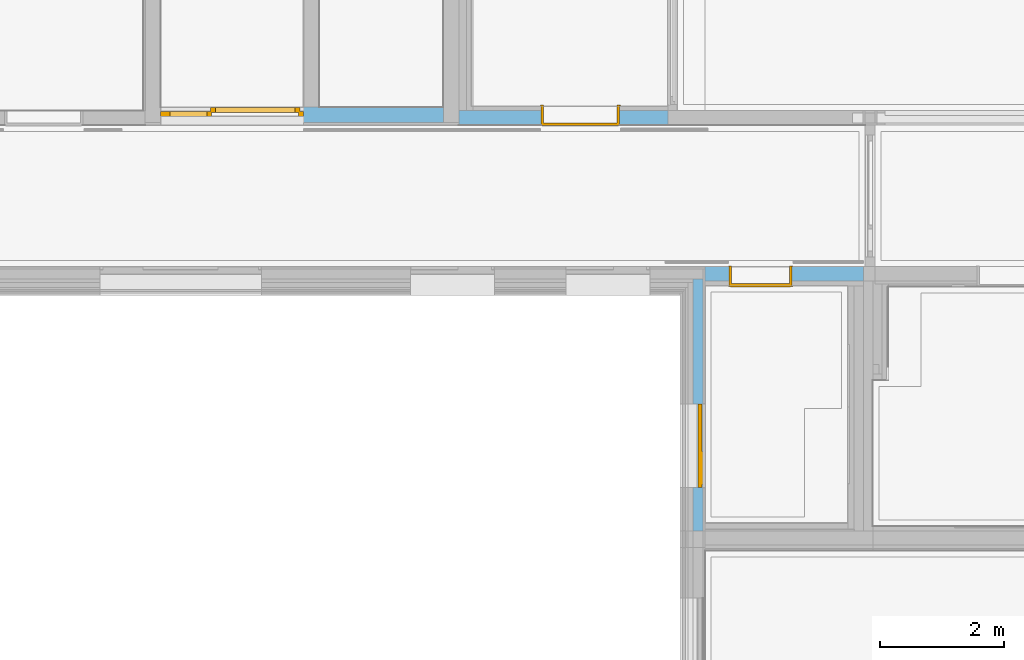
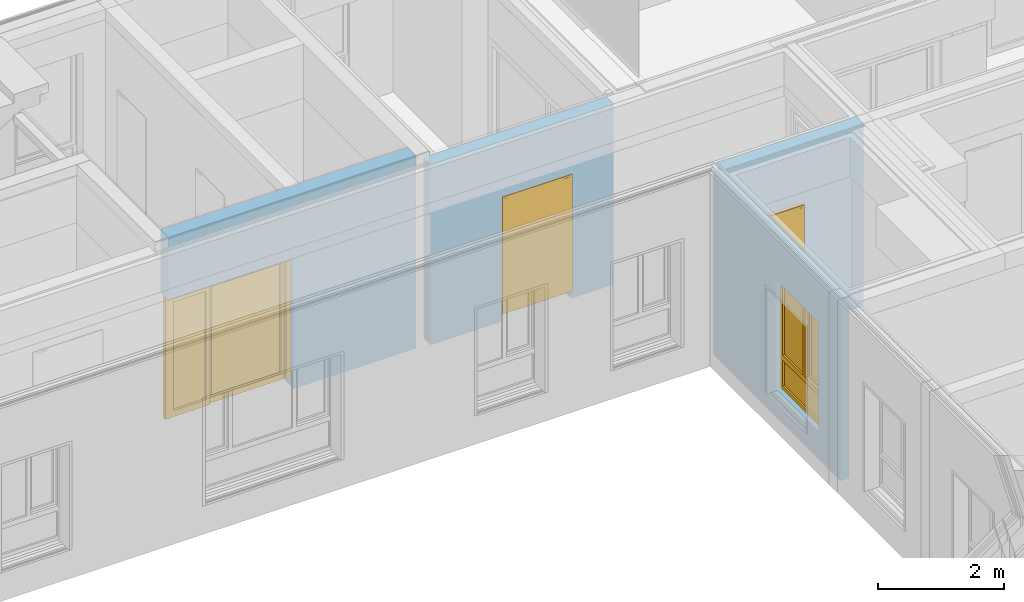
# One storey, part 98 of 222: 3 doors, 1 window, 4 openings, plus 4 elements that do not belong to this part.
"""IFC4 building model written with IfcOpenShell, lengths in metres."""

from ifc_helpers import new_model, entity, si_unit, converted_unit, derived_unit, frame, frame_2d, origin, origin_with_axes, place, context, subcontext, project, spatial, polyline, rectangle, outline, extrude, closed_shell, open_shell, faceted_brep, surface_model, source, transform, mapped, material, type_object, element, fill, save


model = new_model("IFC4")

# Units and contexts
model_context = context("Model", 3, precision=1e-05, world=origin())
body_context = subcontext(model_context, "Body", "Model", "MODEL_VIEW")
ifc_project = project(units=[si_unit("LENGTHUNIT", "METRE"), si_unit("AREAUNIT", "SQUARE_METRE"), si_unit("VOLUMEUNIT", "CUBIC_METRE"), si_unit("MASSUNIT", "GRAM", prefix="KILO"), converted_unit("PLANEANGLEUNIT", "DEGREE", entity("IfcPlaneAngleMeasure", 0.0174532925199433), si_unit("PLANEANGLEUNIT", "RADIAN"), dimensions=[0, 0, 0, 0, 0, 0, 0]), derived_unit("THERMALTRANSMITTANCEUNIT", [(si_unit("POWERUNIT", "WATT"), 1), (si_unit("THERMODYNAMICTEMPERATUREUNIT", "KELVIN"), -1), (si_unit("LENGTHUNIT", "METRE"), -2)]), derived_unit("VOLUMETRICFLOWRATEUNIT", [(si_unit("LENGTHUNIT", "METRE"), 3), (converted_unit("TIMEUNIT", "hour", entity("IfcTimeMeasure", 3600.0), si_unit("TIMEUNIT", "SECOND"), dimensions=[0, 0, 1, 0, 0, 0, 0]), -1), (si_unit("LENGTHUNIT", "METRE"), -1)])], contexts=[model_context])

# Site, building, storey
site_placement = place(None, origin())
site = spatial("IfcSite", under=ifc_project, at=site_placement, Name="Psychiatrie Neubau Wunstorf", CompositionType="ELEMENT")
building_placement = place(site_placement, origin())
building = spatial("IfcBuilding", under=site, at=building_placement, Name="Neubau H2 Stationsgebäude", CompositionType="ELEMENT")
storey_placement = place(building_placement, frame((0.0, 0.0, 3.6)))
storey = spatial("IfcBuildingStorey", under=building, at=storey_placement, Name="H2 Ebene +1", CompositionType="ELEMENT", Elevation=3.6)

# Wall, opening, window
ifc_material_1 = material(Name="WA-DL")
wall_1_placement = place(storey_placement, frame((62.0250000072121, 16.336000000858, 0.0), z_axis=(0.0, 0.0, 1.0), x_axis=(1.7947610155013e-15, 1.0, 0.0)))
wall_1 = element("IfcWall", 1, at=wall_1_placement, inside=storey, material=ifc_material_1, context=body_context, shape_type="SweptSolid", body=[
    extrude(rectangle(XDim=4.05399802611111, YDim=0.16, at=frame_2d((2.02699901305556, 0.08), x_axis=(1.0, 0.0))), origin_with_axes(), (0.0, 0.0, 1.0), 3.55),
])
opening_1_placement = place(wall_1_placement, frame((2.0439980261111, 0.160000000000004, 0.55), z_axis=(1.4210854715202e-15, -1.0, 0.0), x_axis=(0.0, 0.0, 1.0)))
opening_1 = element("IfcOpeningElement", 2, at=opening_1_placement, cuts=wall_1, Name="Fensteröffnung", ObjectType="Opening", context=body_context, shape_type="SweptSolid", body=[
    extrude(outline(polyline([(2.115, 1.35), (2.115, 0.0), (0.0, 0.0), (0.0, 1.35), (2.115, 1.35)])), origin_with_axes(), (0.0, 0.0, 1.0), 0.16),
])
shared_shape_1 = source(origin_with_axes(), body_context, "Body", "SurfaceModel", [
    surface_model("IfcShellBasedSurfaceModel", [(1.35000000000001, 0.0, 2.115), (1.35000000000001, 0.0, 0.0), (1.28000000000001, 0.0, 0.0), (1.28000000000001, 0.0, 2.115), (1.35000000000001, 0.069999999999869, 0.0), (1.35000000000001, 0.069999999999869, 2.115), (1.28000000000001, 0.069999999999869, 2.115), (1.28000000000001, 0.069999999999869, 0.0)], [closed_shell([[[0, 1, 2, 3]], [[4, 5, 6, 7]], [[1, 0, 5, 4]], [[2, 1, 4, 7]], [[3, 2, 7, 6]], [[0, 3, 6, 5]]], orient=[[False], [False], [False], [False], [False], [False]])]),
    surface_model("IfcShellBasedSurfaceModel", [(0.0700000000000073, 0.0, 2.115), (0.0700000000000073, 0.0, 0.0), (0.0, 0.0, 0.0), (0.0, 0.0, 2.115), (0.0700000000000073, 0.069999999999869, 0.0), (0.0700000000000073, 0.069999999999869, 2.115), (0.0, 0.069999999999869, 2.115), (0.0, 0.069999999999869, 0.0)], [closed_shell([[[0, 1, 2, 3]], [[4, 5, 6, 7]], [[1, 0, 5, 4]], [[2, 1, 4, 7]], [[3, 2, 7, 6]], [[0, 3, 6, 5]]], orient=[[False], [False], [False], [False], [False], [False]])]),
    surface_model("IfcShellBasedSurfaceModel", [(1.28000000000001, 0.0, 0.07), (1.28000000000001, 0.0, 0.0), (0.0700000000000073, 0.0, 0.0), (0.0700000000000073, 0.0, 0.07), (1.28000000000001, 0.069999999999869, 0.0), (1.28000000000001, 0.069999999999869, 0.07), (0.0700000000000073, 0.069999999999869, 0.07), (0.0700000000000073, 0.069999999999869, 0.0)], [closed_shell([[[0, 1, 2, 3]], [[4, 5, 6, 7]], [[1, 0, 5, 4]], [[2, 1, 4, 7]], [[3, 2, 7, 6]], [[0, 3, 6, 5]]], orient=[[False], [False], [False], [False], [False], [False]])]),
    surface_model("IfcShellBasedSurfaceModel", [(1.28000000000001, 0.0, 2.115), (1.28000000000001, 0.0, 2.045), (0.0700000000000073, 0.0, 2.045), (0.0700000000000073, 0.0, 2.115), (1.28000000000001, 0.069999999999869, 2.045), (1.28000000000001, 0.069999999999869, 2.115), (0.0700000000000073, 0.069999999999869, 2.115), (0.0700000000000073, 0.069999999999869, 2.045)], [closed_shell([[[0, 1, 2, 3]], [[4, 5, 6, 7]], [[1, 0, 5, 4]], [[2, 1, 4, 7]], [[3, 2, 7, 6]], [[0, 3, 6, 5]]], orient=[[False], [False], [False], [False], [False], [False]])]),
    surface_model("IfcShellBasedSurfaceModel", [(1.28000000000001, 0.0, 0.67), (1.28000000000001, 0.0, 0.57), (0.0700000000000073, 0.0, 0.57), (0.0700000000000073, 0.0, 0.67), (1.28000000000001, 0.069999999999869, 0.57), (1.28000000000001, 0.069999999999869, 0.67), (0.0700000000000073, 0.069999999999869, 0.67), (0.0700000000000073, 0.069999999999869, 0.57)], [closed_shell([[[0, 1, 2, 3]], [[4, 5, 6, 7]], [[1, 0, 5, 4]], [[2, 1, 4, 7]], [[3, 2, 7, 6]], [[0, 3, 6, 5]]], orient=[[False], [False], [False], [False], [False], [False]])]),
    surface_model("IfcShellBasedSurfaceModel", [(1.28000000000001, 0.0349999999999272, 0.07), (0.0700000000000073, 0.0349999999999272, 0.07), (0.0700000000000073, 0.0349999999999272, 0.57), (1.28000000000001, 0.0349999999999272, 0.57)], [open_shell([[[0, 1, 2, 3]]], orient=[[False]])]),
    surface_model("IfcShellBasedSurfaceModel", [(0.784300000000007, 0.0, 2.045), (0.784300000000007, 0.0, 0.67), (0.714300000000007, 0.0, 0.67), (0.714300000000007, 0.0, 2.045), (0.784300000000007, 0.069999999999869, 0.67), (0.784300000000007, 0.069999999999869, 2.045), (0.714300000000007, 0.069999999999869, 2.045), (0.714300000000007, 0.069999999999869, 0.67)], [closed_shell([[[0, 1, 2, 3]], [[4, 5, 6, 7]], [[1, 0, 5, 4]], [[2, 1, 4, 7]], [[3, 2, 7, 6]], [[0, 3, 6, 5]]], orient=[[False], [False], [False], [False], [False], [False]])]),
    surface_model("IfcShellBasedSurfaceModel", [(1.30000000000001, 0.0499999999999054, 2.065), (1.30000000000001, 0.0499999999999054, 0.65), (1.23000000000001, 0.0499999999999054, 0.65), (1.23000000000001, 0.0499999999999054, 2.065), (1.30000000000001, 0.119999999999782, 0.65), (1.30000000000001, 0.119999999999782, 2.065), (1.23000000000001, 0.119999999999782, 2.065), (1.23000000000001, 0.119999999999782, 0.65)], [closed_shell([[[0, 1, 2, 3]], [[4, 5, 6, 7]], [[1, 0, 5, 4]], [[2, 1, 4, 7]], [[3, 2, 7, 6]], [[0, 3, 6, 5]]], orient=[[False], [False], [False], [False], [False], [False]])]),
    surface_model("IfcShellBasedSurfaceModel", [(0.834300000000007, 0.0499999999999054, 2.065), (0.834300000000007, 0.0499999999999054, 0.65), (0.764300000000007, 0.0499999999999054, 0.65), (0.764300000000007, 0.0499999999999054, 2.065), (0.834300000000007, 0.119999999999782, 0.65), (0.834300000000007, 0.119999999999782, 2.065), (0.764300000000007, 0.119999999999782, 2.065), (0.764300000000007, 0.119999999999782, 0.65)], [closed_shell([[[0, 1, 2, 3]], [[4, 5, 6, 7]], [[1, 0, 5, 4]], [[2, 1, 4, 7]], [[3, 2, 7, 6]], [[0, 3, 6, 5]]], orient=[[False], [False], [False], [False], [False], [False]])]),
    surface_model("IfcShellBasedSurfaceModel", [(1.23000000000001, 0.0499999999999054, 0.72), (1.23000000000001, 0.0499999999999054, 0.65), (0.834300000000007, 0.0499999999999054, 0.65), (0.834300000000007, 0.0499999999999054, 0.72), (1.23000000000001, 0.119999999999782, 0.65), (1.23000000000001, 0.119999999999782, 0.72), (0.834300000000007, 0.119999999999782, 0.72), (0.834300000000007, 0.119999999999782, 0.65)], [closed_shell([[[0, 1, 2, 3]], [[4, 5, 6, 7]], [[1, 0, 5, 4]], [[2, 1, 4, 7]], [[3, 2, 7, 6]], [[0, 3, 6, 5]]], orient=[[False], [False], [False], [False], [False], [False]])]),
    surface_model("IfcShellBasedSurfaceModel", [(1.23000000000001, 0.0499999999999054, 2.065), (1.23000000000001, 0.0499999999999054, 1.995), (0.834300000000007, 0.0499999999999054, 1.995), (0.834300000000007, 0.0499999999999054, 2.065), (1.23000000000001, 0.119999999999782, 1.995), (1.23000000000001, 0.119999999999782, 2.065), (0.834300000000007, 0.119999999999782, 2.065), (0.834300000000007, 0.119999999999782, 1.995)], [closed_shell([[[0, 1, 2, 3]], [[4, 5, 6, 7]], [[1, 0, 5, 4]], [[2, 1, 4, 7]], [[3, 2, 7, 6]], [[0, 3, 6, 5]]], orient=[[False], [False], [False], [False], [False], [False]])]),
    surface_model("IfcShellBasedSurfaceModel", [(0.714300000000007, 0.0349999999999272, 0.67), (0.0700000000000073, 0.0349999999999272, 0.67), (0.0700000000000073, 0.0349999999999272, 2.045), (0.714300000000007, 0.0349999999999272, 2.045)], [open_shell([[[0, 1, 2, 3]]], orient=[[False]])]),
    surface_model("IfcShellBasedSurfaceModel", [(1.23000000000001, 0.0849999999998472, 0.72), (0.834300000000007, 0.0849999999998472, 0.72), (0.834300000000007, 0.0849999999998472, 1.995), (1.23000000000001, 0.0849999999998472, 1.995)], [open_shell([[[0, 1, 2, 3]]], orient=[[False]])]),
])
window_placement = place(opening_1_placement, frame((0.0, 0.0, 0.081), z_axis=(1.0, 0.0, 0.0), x_axis=(0.0, 1.0, 3.73675543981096e-16)))
window = element("IfcWindow", 3, at=window_placement, inside=storey, Name="Fenster", OverallHeight=2.115, OverallWidth=1.35, PartitioningType="USERDEFINED", PredefinedType="WINDOW", context=body_context, shape_type="MappedRepresentation", body=[
    mapped(shared_shape_1, transform((0.0, 0.0, 0.0), x_axis=(1.0, 0.0, 0.0), y_axis=(0.0, 1.0, 0.0), z_axis=(0.0, 0.0, 1.0), scale=1.0)),
])
fill(opening_1, window)

# Wall, opening, door
ifc_material_2 = material(Name="WI-STB")
wall_2_placement = place(storey_placement, frame((57.85, 23.1549914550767, 0.0), z_axis=(0.0, 0.0, 1.0), x_axis=(-1.0, 0.0, 0.0)))
wall_2 = element("IfcWall", 4, at=wall_2_placement, inside=storey, material=ifc_material_2, context=body_context, shape_type="SweptSolid", body=[
    extrude(rectangle(XDim=4.55000000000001, YDim=0.25, at=frame_2d((2.275, 0.125), x_axis=(1.0, 0.0))), origin_with_axes(), (0.0, 0.0, 1.0), 3.75),
])
opening_2_placement = place(wall_2_placement, frame((4.55000000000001, 0.25, 0.0), z_axis=(0.0, -1.0, 0.0), x_axis=(0.0, 0.0, 1.0)))
opening_2 = element("IfcOpeningElement", 5, at=opening_2_placement, cuts=wall_2, Name="Türöffnung", ObjectType="Opening", context=body_context, shape_type="SweptSolid", body=[
    extrude(outline(polyline([(2.53, 2.2999951), (2.53, 0.0), (0.0, 0.0), (0.0, 2.2999951), (2.53, 2.2999951)])), origin_with_axes(), (0.0, 0.0, 1.0), 0.25),
])
ifc_material_3 = material(Name="TI-1F-AG-D-1S-ZK")
shared_shape_2 = source(origin_with_axes(), body_context, "Body", "SurfaceModel", [
    surface_model("IfcShellBasedSurfaceModel", [(0.0, -0.0005, 2.53), (0.0800000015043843, -0.0005, 2.53), (0.0800000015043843, -0.0005, 0.15), (0.0, -0.0005, 0.15), (0.0, 0.0795, 0.15), (0.0800000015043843, 0.0795, 0.15), (0.0800000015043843, 0.0795, 2.53), (0.0, 0.0795, 2.53)], [closed_shell([[[0, 1, 2, 3]], [[4, 5, 6, 7]], [[3, 4, 7, 0]], [[2, 5, 4, 3]], [[1, 6, 5, 2]], [[0, 7, 6, 1]]], orient=[[False], [False], [False], [False], [False], [False]])]),
    surface_model("IfcShellBasedSurfaceModel", [(2.21999509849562, -0.0005, 2.53), (2.2999951, -0.0005, 2.53), (2.2999951, -0.0005, 0.15), (2.21999509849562, -0.0005, 0.15), (2.21999509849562, 0.0795, 0.15), (2.2999951, 0.0795, 0.15), (2.2999951, 0.0795, 2.53), (2.21999509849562, 0.0795, 2.53)], [closed_shell([[[0, 1, 2, 3]], [[4, 5, 6, 7]], [[3, 4, 7, 0]], [[2, 5, 4, 3]], [[1, 6, 5, 2]], [[0, 7, 6, 1]]], orient=[[False], [False], [False], [False], [False], [False]])]),
    surface_model("IfcShellBasedSurfaceModel", [(0.0800000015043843, -0.0005, 2.53), (2.21999509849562, -0.0005, 2.53), (2.21999509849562, -0.0005, 2.45), (0.0800000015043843, -0.0005, 2.45), (0.0800000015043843, 0.0795, 2.45), (2.21999509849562, 0.0795, 2.45), (2.21999509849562, 0.0795, 2.53), (0.0800000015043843, 0.0795, 2.53)], [closed_shell([[[0, 1, 2, 3]], [[4, 5, 6, 7]], [[3, 4, 7, 0]], [[2, 5, 4, 3]], [[1, 6, 5, 2]], [[0, 7, 6, 1]]], orient=[[False], [False], [False], [False], [False], [False]])]),
    surface_model("IfcShellBasedSurfaceModel", [(0.0800000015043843, -0.0005, 2.45), (0.150000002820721, -0.0005, 2.45), (0.150000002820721, -0.0005, 0.15), (0.0800000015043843, -0.0005, 0.15), (0.0800000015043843, 0.0795, 0.15), (0.150000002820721, 0.0795, 0.15), (0.150000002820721, 0.0795, 2.45), (0.0800000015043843, 0.0795, 2.45)], [closed_shell([[[0, 1, 2, 3]], [[4, 5, 6, 7]], [[3, 4, 7, 0]], [[2, 5, 4, 3]], [[1, 6, 5, 2]], [[0, 7, 6, 1]]], orient=[[False], [False], [False], [False], [False], [False]])]),
    surface_model("IfcShellBasedSurfaceModel", [(0.74899507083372, -0.0005, 2.45), (0.818995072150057, -0.0005, 2.45), (0.818995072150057, -0.0005, 0.15), (0.74899507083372, -0.0005, 0.15), (0.74899507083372, 0.0795, 0.15), (0.818995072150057, 0.0795, 0.15), (0.818995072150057, 0.0795, 2.45), (0.74899507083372, 0.0795, 2.45)], [closed_shell([[[0, 1, 2, 3]], [[4, 5, 6, 7]], [[3, 4, 7, 0]], [[2, 5, 4, 3]], [[1, 6, 5, 2]], [[0, 7, 6, 1]]], orient=[[False], [False], [False], [False], [False], [False]])]),
    surface_model("IfcShellBasedSurfaceModel", [(0.150000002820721, -0.0005, 0.27), (0.74899507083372, -0.0005, 0.27), (0.74899507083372, -0.0005, 0.15), (0.150000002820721, -0.0005, 0.15), (0.150000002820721, 0.0795, 0.15), (0.74899507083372, 0.0795, 0.15), (0.74899507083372, 0.0795, 0.27), (0.150000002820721, 0.0795, 0.27)], [closed_shell([[[0, 1, 2, 3]], [[4, 5, 6, 7]], [[3, 4, 7, 0]], [[2, 5, 4, 3]], [[1, 6, 5, 2]], [[0, 7, 6, 1]]], orient=[[False], [False], [False], [False], [False], [False]])]),
    surface_model("IfcShellBasedSurfaceModel", [(0.150000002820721, -0.0005, 2.45), (0.74899507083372, -0.0005, 2.45), (0.74899507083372, -0.0005, 2.38), (0.150000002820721, -0.0005, 2.38), (0.150000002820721, 0.0795, 2.38), (0.74899507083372, 0.0795, 2.38), (0.74899507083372, 0.0795, 2.45), (0.150000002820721, 0.0795, 2.45)], [closed_shell([[[0, 1, 2, 3]], [[4, 5, 6, 7]], [[3, 4, 7, 0]], [[2, 5, 4, 3]], [[1, 6, 5, 2]], [[0, 7, 6, 1]]], orient=[[False], [False], [False], [False], [False], [False]])]),
    surface_model("IfcShellBasedSurfaceModel", [(0.799995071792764, 0.0595, 2.47), (0.879995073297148, 0.0595, 2.47), (0.879995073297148, 0.0595, 0.13), (0.799995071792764, 0.0595, 0.13), (0.799995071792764, 0.1395, 0.13), (0.879995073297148, 0.1395, 0.13), (0.879995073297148, 0.1395, 2.47), (0.799995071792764, 0.1395, 2.47)], [closed_shell([[[0, 1, 2, 3]], [[4, 5, 6, 7]], [[3, 4, 7, 0]], [[2, 5, 4, 3]], [[1, 6, 5, 2]], [[0, 7, 6, 1]]], orient=[[False], [False], [False], [False], [False], [False]])]),
    surface_model("IfcShellBasedSurfaceModel", [(2.15999509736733, 0.0595, 2.47), (2.23999509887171, 0.0595, 2.47), (2.23999509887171, 0.0595, 0.13), (2.15999509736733, 0.0595, 0.13), (2.15999509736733, 0.1395, 0.13), (2.23999509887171, 0.1395, 0.13), (2.23999509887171, 0.1395, 2.47), (2.15999509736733, 0.1395, 2.47)], [closed_shell([[[0, 1, 2, 3]], [[4, 5, 6, 7]], [[3, 4, 7, 0]], [[2, 5, 4, 3]], [[1, 6, 5, 2]], [[0, 7, 6, 1]]], orient=[[False], [False], [False], [False], [False], [False]])]),
    surface_model("IfcShellBasedSurfaceModel", [(0.879995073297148, 0.0595, 0.25), (2.15999509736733, 0.0595, 0.25), (2.15999509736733, 0.0595, 0.13), (0.879995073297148, 0.0595, 0.13), (0.879995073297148, 0.1395, 0.13), (2.15999509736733, 0.1395, 0.13), (2.15999509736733, 0.1395, 0.25), (0.879995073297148, 0.1395, 0.25)], [closed_shell([[[0, 1, 2, 3]], [[4, 5, 6, 7]], [[3, 4, 7, 0]], [[2, 5, 4, 3]], [[1, 6, 5, 2]], [[0, 7, 6, 1]]], orient=[[False], [False], [False], [False], [False], [False]])]),
    surface_model("IfcShellBasedSurfaceModel", [(0.879995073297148, 0.0595, 2.47), (2.15999509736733, 0.0595, 2.47), (2.15999509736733, 0.0595, 2.39), (0.879995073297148, 0.0595, 2.39), (0.879995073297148, 0.1395, 2.39), (2.15999509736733, 0.1395, 2.39), (2.15999509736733, 0.1395, 2.47), (0.879995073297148, 0.1395, 2.47)], [closed_shell([[[0, 1, 2, 3]], [[4, 5, 6, 7]], [[3, 4, 7, 0]], [[2, 5, 4, 3]], [[1, 6, 5, 2]], [[0, 7, 6, 1]]], orient=[[False], [False], [False], [False], [False], [False]])]),
    surface_model("IfcShellBasedSurfaceModel", [(0.150000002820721, 0.0395, 0.27), (0.150000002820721, 0.0395, 2.38), (0.74899507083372, 0.0395, 2.38), (0.74899507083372, 0.0395, 0.27)], [open_shell([[[0, 1, 2, 3]]], orient=[[False]])]),
    surface_model("IfcShellBasedSurfaceModel", [(0.879995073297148, 0.0995, 0.25), (0.879995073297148, 0.0995, 2.39), (2.15999509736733, 0.0995, 2.39), (2.15999509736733, 0.0995, 0.25)], [open_shell([[[0, 1, 2, 3]]], orient=[[False]])]),
])
door_1_placement = place(opening_2_placement, frame((0.0, 0.0, 0.1), z_axis=(1.0, 0.0, 0.0), x_axis=(0.0, 1.0, 0.0)))
door_1 = element("IfcDoor", 6, at=door_1_placement, inside=storey, material=ifc_material_3, Name="SMT", OperationType="USERDEFINED", OverallHeight=2.53, OverallWidth=2.3, PredefinedType="DOOR", context=body_context, shape_type="MappedRepresentation", body=[
    mapped(shared_shape_2, transform((0.0, 0.0, 0.0), x_axis=(1.0, 0.0, 0.0), y_axis=(0.0, 1.0, 0.0), z_axis=(0.0, 0.0, 1.0), scale=1.0)),
])
fill(opening_2, door_1)

ifc_material_4 = material(Name="WI-HW 60")
wall_3_placement = place(storey_placement, frame((58.1, 22.8639999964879, 0.0)))
wall_3 = element("IfcWall", 7, at=wall_3_placement, inside=storey, material=ifc_material_4, context=body_context, shape_type="SweptSolid", body=[
    extrude(outline(polyline([(0.0, 0.0), (3.36399999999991, 0.0), (3.36400000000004, 0.232), (0.225, 0.232), (0.0, 0.232), (0.0, 0.0)])), origin_with_axes(), (0.0, 0.0, 1.0), 3.51),
])
opening_3_placement = place(wall_3_placement, frame((1.32500000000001, 0.0, 0.0), z_axis=(0.0, 1.0, 0.0), x_axis=(0.0, 0.0, 1.0)))
opening_3 = element("IfcOpeningElement", 8, at=opening_3_placement, cuts=wall_3, Name="Türöffnung", ObjectType="Opening", context=body_context, shape_type="SweptSolid", body=[
    extrude(outline(polyline([(2.41, 1.26), (2.41, 0.0), (0.0, 0.0), (0.0, 1.26), (2.41, 1.26)])), origin_with_axes(), (0.0, 0.0, 1.0), 0.232),
])
ifc_material_5 = material(Name="TI-1F-UZ-M-ZK-SF")
door_type_1 = type_object("IfcDoorType", Name="SMT", OperationType="SINGLE_SWING_RIGHT", ParameterTakesPrecedence=False, PredefinedType="DOOR")
shared_shape_3 = source(origin_with_axes(), body_context, "Body", "Brep", [
    faceted_brep([(0.0, -0.015, 2.41), (0.04, -0.015, 2.41), (0.04, -0.015, 0.15), (0.0, -0.015, 0.15), (0.0, 0.322, 0.15), (0.04, 0.322, 0.15), (0.04, 0.322, 2.41), (0.0, 0.322, 2.41)], [[[0, 1, 2, 3]], [[4, 5, 6, 7]], [[3, 4, 7, 0]], [[2, 5, 4, 3]], [[1, 6, 5, 2]], [[0, 7, 6, 1]]], orient=[[False], [False], [False], [False], [False], [False]]),
    faceted_brep([(0.0, -0.015, 2.425), (0.0, -0.015, 0.15), (-0.015, -0.015, 0.15), (-0.015, -0.015, 2.425), (0.0, 0.0, 0.15), (0.0, 0.0, 2.425), (-0.015, 0.0, 2.425), (-0.015, 0.0, 0.15)], [[[0, 1, 2, 3]], [[4, 5, 6, 7]], [[1, 0, 5, 4]], [[2, 1, 4, 7]], [[3, 2, 7, 6]], [[0, 3, 6, 5]]], orient=[[False], [False], [False], [False], [False], [False]]),
    faceted_brep([(0.0, 0.307, 2.425), (0.0, 0.307, 0.15), (-0.015, 0.307, 0.15), (-0.015, 0.307, 2.425), (0.0, 0.322, 0.15), (0.0, 0.322, 2.425), (-0.015, 0.322, 2.425), (-0.015, 0.322, 0.15)], [[[0, 1, 2, 3]], [[4, 5, 6, 7]], [[1, 0, 5, 4]], [[2, 1, 4, 7]], [[3, 2, 7, 6]], [[0, 3, 6, 5]]], orient=[[False], [False], [False], [False], [False], [False]]),
    faceted_brep([(1.22, -0.015, 2.41), (1.26, -0.015, 2.41), (1.26, -0.015, 0.15), (1.22, -0.015, 0.15), (1.22, 0.322, 0.15), (1.26, 0.322, 0.15), (1.26, 0.322, 2.41), (1.22, 0.322, 2.41)], [[[0, 1, 2, 3]], [[4, 5, 6, 7]], [[3, 4, 7, 0]], [[2, 5, 4, 3]], [[1, 6, 5, 2]], [[0, 7, 6, 1]]], orient=[[False], [False], [False], [False], [False], [False]]),
    faceted_brep([(1.26, -0.015, 2.425), (1.275, -0.015, 2.425), (1.275, -0.015, 0.15), (1.26, -0.015, 0.15), (1.26, 0.0, 0.15), (1.275, 0.0, 0.15), (1.275, 0.0, 2.425), (1.26, 0.0, 2.425)], [[[0, 1, 2, 3]], [[4, 5, 6, 7]], [[3, 4, 7, 0]], [[2, 5, 4, 3]], [[1, 6, 5, 2]], [[0, 7, 6, 1]]], orient=[[False], [False], [False], [False], [False], [False]]),
    faceted_brep([(1.26, 0.307, 2.425), (1.275, 0.307, 2.425), (1.275, 0.307, 0.15), (1.26, 0.307, 0.15), (1.26, 0.322, 0.15), (1.275, 0.322, 0.15), (1.275, 0.322, 2.425), (1.26, 0.322, 2.425)], [[[0, 1, 2, 3]], [[4, 5, 6, 7]], [[3, 4, 7, 0]], [[2, 5, 4, 3]], [[1, 6, 5, 2]], [[0, 7, 6, 1]]], orient=[[False], [False], [False], [False], [False], [False]]),
    faceted_brep([(0.04, -0.015, 2.41), (1.22, -0.015, 2.41), (1.22, -0.015, 2.37), (0.04, -0.015, 2.37), (0.04, 0.322, 2.37), (1.22, 0.322, 2.37), (1.22, 0.322, 2.41), (0.04, 0.322, 2.41)], [[[0, 1, 2, 3]], [[4, 5, 6, 7]], [[3, 4, 7, 0]], [[2, 5, 4, 3]], [[1, 6, 5, 2]], [[0, 7, 6, 1]]], orient=[[False], [False], [False], [False], [False], [False]]),
    faceted_brep([(0.0, -0.015, 2.425), (1.26, -0.015, 2.425), (1.26, -0.015, 2.41), (0.0, -0.015, 2.41), (0.0, 0.0, 2.41), (1.26, 0.0, 2.41), (1.26, 0.0, 2.425), (0.0, 0.0, 2.425)], [[[0, 1, 2, 3]], [[4, 5, 6, 7]], [[3, 4, 7, 0]], [[2, 5, 4, 3]], [[1, 6, 5, 2]], [[0, 7, 6, 1]]], orient=[[False], [False], [False], [False], [False], [False]]),
    faceted_brep([(0.0, 0.307, 2.425), (1.26, 0.307, 2.425), (1.26, 0.307, 2.41), (0.0, 0.307, 2.41), (0.0, 0.322, 2.41), (1.26, 0.322, 2.41), (1.26, 0.322, 2.425), (0.0, 0.322, 2.425)], [[[0, 1, 2, 3]], [[4, 5, 6, 7]], [[3, 4, 7, 0]], [[2, 5, 4, 3]], [[1, 6, 5, 2]], [[0, 7, 6, 1]]], orient=[[False], [False], [False], [False], [False], [False]]),
    faceted_brep([(0.025, 0.273, 2.385), (1.235, 0.273, 2.385), (1.235, 0.273, 0.15), (0.025, 0.273, 0.15), (0.025, 0.323, 0.15), (1.235, 0.323, 0.15), (1.235, 0.323, 2.385), (0.025, 0.323, 2.385)], [[[0, 1, 2, 3]], [[4, 5, 6, 7]], [[3, 4, 7, 0]], [[2, 5, 4, 3]], [[1, 6, 5, 2]], [[0, 7, 6, 1]]], orient=[[False], [False], [False], [False], [False], [False]]),
])
door_2_placement = place(opening_3_placement, frame((0.0, 1.26, 0.307), z_axis=(1.0, 0.0, 0.0), x_axis=(0.0, -1.0, 0.0)))
door_2 = element("IfcDoor", 9, at=door_2_placement, inside=storey, type_object=door_type_1, material=ifc_material_5, Name="SMT", OverallHeight=2.41, OverallWidth=1.26, context=body_context, shape_type="MappedRepresentation", body=[
    mapped(shared_shape_3, transform((0.0, 0.0, 0.0), x_axis=(1.0, 0.0, 0.0), y_axis=(0.0, 1.0, 0.0), z_axis=(0.0, 0.0, 1.0), scale=1.0)),
])
fill(opening_3, door_2)

ifc_material_6 = material(Name="WI-HW 60")
wall_4_placement = place(storey_placement, frame((64.61, 20.5859981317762, 0.0), z_axis=(0.0, 0.0, 1.0), x_axis=(-1.0, 0.0, 0.0)))
wall_4 = element("IfcWall", 10, at=wall_4_placement, inside=storey, material=ifc_material_6, context=body_context, shape_type="SweptSolid", body=[
    extrude(rectangle(XDim=2.54899999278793, YDim=0.231999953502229, at=frame_2d((1.27449999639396, 0.115999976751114), x_axis=(1.0, 0.0))), origin_with_axes(), (0.0, 0.0, 1.0), 3.55),
])
opening_4_placement = place(wall_4_placement, frame((1.14999998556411, 0.0, 0.0), z_axis=(0.0, 1.0, 0.0), x_axis=(0.0, 0.0, 1.0)))
opening_4 = element("IfcOpeningElement", 11, at=opening_4_placement, cuts=wall_4, Name="Türöffnung", ObjectType="Opening", context=body_context, shape_type="SweptSolid", body=[
    extrude(outline(polyline([(2.41, 1.01), (2.41, 0.0), (0.0, 0.0), (0.0, 1.01), (2.41, 1.01)])), origin_with_axes(), (0.0, 0.0, 1.0), 0.231999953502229),
])
ifc_material_7 = material(Name="TI-1F-UZ-D-N")
door_type_2 = type_object("IfcDoorType", Name="SMT", OperationType="SINGLE_SWING_RIGHT", ParameterTakesPrecedence=False, PredefinedType="DOOR")
shared_shape_4 = source(origin_with_axes(), body_context, "Body", "Brep", [
    faceted_brep([(1.01, -0.0149999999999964, 2.41), (1.01, -0.0149999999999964, 0.15), (0.97, -0.0149999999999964, 0.15), (0.97, -0.0149999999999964, 2.41), (1.01, 0.321999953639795, 0.15), (1.01, 0.321999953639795, 2.41), (0.97, 0.321999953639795, 2.41), (0.97, 0.321999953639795, 0.15)], [[[0, 1, 2, 3]], [[4, 5, 6, 7]], [[1, 0, 5, 4]], [[2, 1, 4, 7]], [[3, 2, 7, 6]], [[0, 3, 6, 5]]], orient=[[False], [False], [False], [False], [False], [False]]),
    faceted_brep([(1.01, -0.0149999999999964, 2.425), (1.025, -0.0149999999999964, 2.425), (1.025, -0.0149999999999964, 0.15), (1.01, -0.0149999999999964, 0.15), (1.01, 0.0, 0.15), (1.025, 0.0, 0.15), (1.025, 0.0, 2.425), (1.01, 0.0, 2.425)], [[[0, 1, 2, 3]], [[4, 5, 6, 7]], [[3, 4, 7, 0]], [[2, 5, 4, 3]], [[1, 6, 5, 2]], [[0, 7, 6, 1]]], orient=[[False], [False], [False], [False], [False], [False]]),
    faceted_brep([(1.01, 0.306999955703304, 2.425), (1.025, 0.306999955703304, 2.425), (1.025, 0.306999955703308, 0.15), (1.01, 0.306999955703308, 0.15), (1.01, 0.321999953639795, 0.15), (1.025, 0.321999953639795, 0.15), (1.025, 0.321999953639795, 2.425), (1.01, 0.321999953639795, 2.425)], [[[0, 1, 2, 3]], [[4, 5, 6, 7]], [[3, 4, 7, 0]], [[2, 5, 4, 3]], [[1, 6, 5, 2]], [[0, 7, 6, 1]]], orient=[[False], [False], [False], [False], [False], [False]]),
    faceted_brep([(0.04, -0.0149999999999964, 2.41), (0.04, -0.0149999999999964, 0.15), (0.0, -0.0149999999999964, 0.15), (0.0, -0.0149999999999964, 2.41), (0.04, 0.321999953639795, 0.15), (0.04, 0.321999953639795, 2.41), (0.0, 0.321999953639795, 2.41), (0.0, 0.321999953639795, 0.15)], [[[0, 1, 2, 3]], [[4, 5, 6, 7]], [[1, 0, 5, 4]], [[2, 1, 4, 7]], [[3, 2, 7, 6]], [[0, 3, 6, 5]]], orient=[[False], [False], [False], [False], [False], [False]]),
    faceted_brep([(0.0, -0.0149999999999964, 2.425), (0.0, -0.0149999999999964, 0.15), (-0.015, -0.0149999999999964, 0.15), (-0.015, -0.0149999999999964, 2.425), (0.0, 0.0, 0.15), (0.0, 0.0, 2.425), (-0.015, 0.0, 2.425), (-0.015, 0.0, 0.15)], [[[0, 1, 2, 3]], [[4, 5, 6, 7]], [[1, 0, 5, 4]], [[2, 1, 4, 7]], [[3, 2, 7, 6]], [[0, 3, 6, 5]]], orient=[[False], [False], [False], [False], [False], [False]]),
    faceted_brep([(0.0, 0.306999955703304, 2.425), (0.0, 0.306999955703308, 0.15), (-0.015, 0.306999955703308, 0.15), (-0.015, 0.306999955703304, 2.425), (0.0, 0.321999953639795, 0.15), (0.0, 0.321999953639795, 2.425), (-0.015, 0.321999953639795, 2.425), (-0.015, 0.321999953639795, 0.15)], [[[0, 1, 2, 3]], [[4, 5, 6, 7]], [[1, 0, 5, 4]], [[2, 1, 4, 7]], [[3, 2, 7, 6]], [[0, 3, 6, 5]]], orient=[[False], [False], [False], [False], [False], [False]]),
    faceted_brep([(0.97, -0.0149999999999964, 2.41), (0.97, -0.0149999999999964, 2.37), (0.04, -0.0149999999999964, 2.37), (0.04, -0.0149999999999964, 2.41), (0.97, 0.321999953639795, 2.37), (0.97, 0.321999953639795, 2.41), (0.04, 0.321999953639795, 2.41), (0.04, 0.321999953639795, 2.37)], [[[0, 1, 2, 3]], [[4, 5, 6, 7]], [[1, 0, 5, 4]], [[2, 1, 4, 7]], [[3, 2, 7, 6]], [[0, 3, 6, 5]]], orient=[[False], [False], [False], [False], [False], [False]]),
    faceted_brep([(1.01, -0.0149999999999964, 2.425), (1.01, -0.0149999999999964, 2.41), (0.0, -0.0149999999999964, 2.41), (0.0, -0.0149999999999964, 2.425), (1.01, 0.0, 2.41), (1.01, 0.0, 2.425), (0.0, 0.0, 2.425), (0.0, 0.0, 2.41)], [[[0, 1, 2, 3]], [[4, 5, 6, 7]], [[1, 0, 5, 4]], [[2, 1, 4, 7]], [[3, 2, 7, 6]], [[0, 3, 6, 5]]], orient=[[False], [False], [False], [False], [False], [False]]),
    faceted_brep([(1.01, 0.306999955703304, 2.425), (1.01, 0.306999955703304, 2.41), (0.0, 0.306999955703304, 2.41), (0.0, 0.306999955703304, 2.425), (1.01, 0.321999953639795, 2.41), (1.01, 0.321999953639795, 2.425), (0.0, 0.321999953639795, 2.425), (0.0, 0.321999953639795, 2.41)], [[[0, 1, 2, 3]], [[4, 5, 6, 7]], [[1, 0, 5, 4]], [[2, 1, 4, 7]], [[3, 2, 7, 6]], [[0, 3, 6, 5]]], orient=[[False], [False], [False], [False], [False], [False]]),
    faceted_brep([(0.985, 0.272999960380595, 2.385), (0.985, 0.272999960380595, 0.15), (0.025, 0.272999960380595, 0.15), (0.025, 0.272999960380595, 2.385), (0.985, 0.322999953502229, 0.15), (0.985, 0.322999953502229, 2.385), (0.025, 0.322999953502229, 2.385), (0.025, 0.322999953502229, 0.15)], [[[0, 1, 2, 3]], [[4, 5, 6, 7]], [[1, 0, 5, 4]], [[2, 1, 4, 7]], [[3, 2, 7, 6]], [[0, 3, 6, 5]]], orient=[[False], [False], [False], [False], [False], [False]]),
])
door_3_placement = place(opening_4_placement, frame((0.0, 0.0, 0.0), z_axis=(1.0, 0.0, 0.0), x_axis=(0.0, 1.0, 0.0)))
door_3 = element("IfcDoor", 12, at=door_3_placement, inside=storey, type_object=door_type_2, material=ifc_material_7, Name="SMT", OverallHeight=2.41, OverallWidth=1.01, context=body_context, shape_type="MappedRepresentation", body=[
    mapped(shared_shape_4, transform((0.0, 0.0, 0.0), x_axis=(1.0, 0.0, 0.0), y_axis=(0.0, 1.0, 0.0), z_axis=(0.0, 0.0, 1.0), scale=1.0)),
])
fill(opening_4, door_3)

save(model, "model.ifc")
